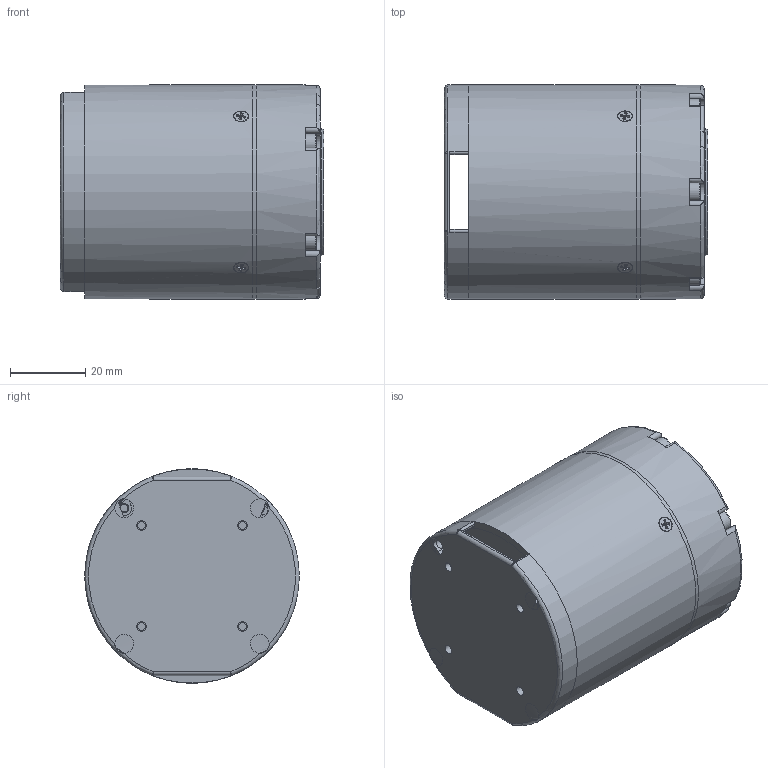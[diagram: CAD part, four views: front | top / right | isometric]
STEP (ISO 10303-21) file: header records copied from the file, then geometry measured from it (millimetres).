
FILE_DESCRIPTION(/* description */ (''),/* implementation_level */ '2;1');
FILE_NAME(/* name */ '',/* time_stamp */ '2025-04-23T13:31:24+08:00',/* author */ ('simmi'),/* organization */ (''),/* preprocessor_version */ 'ST-DEVELOPER v19.2',/* originating_system */ 'Autodesk Inventor 2024',/* authorisation */ '');
FILE_SCHEMA (('AUTOMOTIVE_DESIGN { 1 0 10303 214 3 1 1 }'));
Length unit declared in the file: millimetre
Products named in the file (1): 4310-40刹车_简化_1
Bounding box: 70.1 x 57 x 57 mm (x, y, z)
Volume: 155069.1 mm3; surface area: 42718.1 mm2
Topology: 1 solids, 8 shells, 578 faces, 1495 edges, 982 vertices
Faces by surface type: cylinder 251, plane 213, cone 66, torus 44, sphere 4
Full cylindrical faces by diameter (mm): 2.013 x8, 2.208 x4, 2.4 x1, 2.459 x16, 2.5 x8, 3 x2, 3.8 x4, 4 x11, 4.5 x3, 5.5 x6, 5.7 x3, 6.003 x1, 9 x1, 11 x1, 32 x1, 34 x1, 35 x1, 37 x1, 40 x1, 54 x1, 57 x3
Entity records: 19388 total; most frequent: CARTESIAN_POINT 4474, DIRECTION 3155, ORIENTED_EDGE 2964, EDGE_CURVE 1482, AXIS2_PLACEMENT_3D 1308, VERTEX_POINT 982, CIRCLE 729, EDGE_LOOP 662
